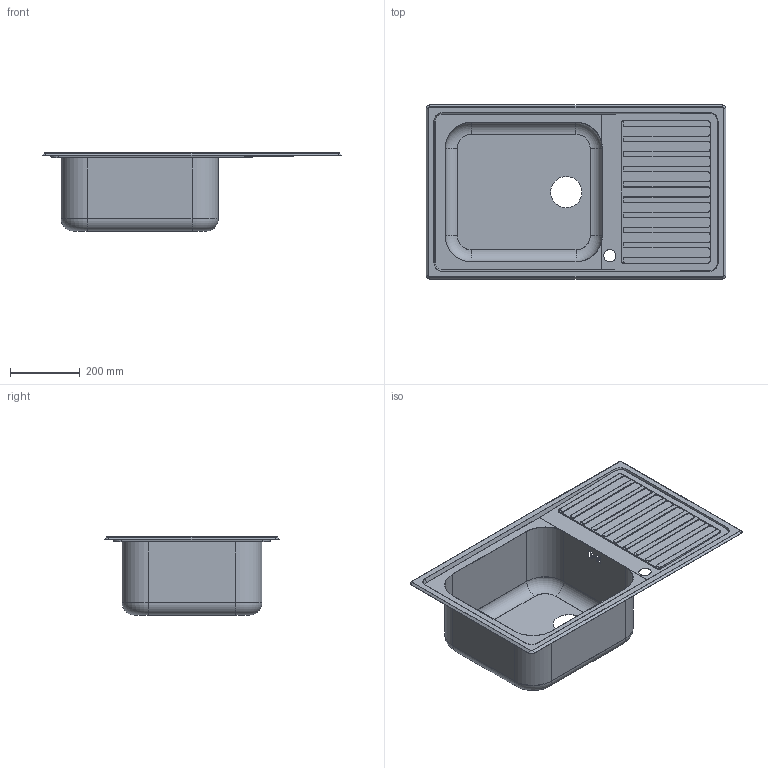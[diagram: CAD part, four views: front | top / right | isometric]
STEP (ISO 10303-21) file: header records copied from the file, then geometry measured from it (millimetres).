
FILE_DESCRIPTION(('CATIA V5 STEP Exchange'),'2;1');
FILE_NAME('C:\Users\linop\Desktop\LG861S-2.stp','2018-05-28T15:55:28+00:00',('none'),('none'),'CATIA Version 5-6 Release 2014','CATIA V5 STEP AP203','none');
FILE_SCHEMA(('CONFIG_CONTROL_DESIGN'));
Length unit declared in the file: millimetre
Products named in the file (1): LG861S-2
Bounding box: 860 x 500 x 224 mm (x, y, z)
Volume: 509722.1 mm3; surface area: 1545996.1 mm2
Topology: 2 solids, 2 shells, 297 faces, 838 edges, 548 vertices
Faces by surface type: plane 143, cylinder 130, cone 16, torus 8
Entity records: 9425 total; most frequent: CARTESIAN_POINT 2002, ORIENTED_EDGE 1676, DIRECTION 1272, EDGE_CURVE 838, VERTEX_POINT 548, VECTOR 534, LINE 534, AXIS2_PLACEMENT_3D 486
